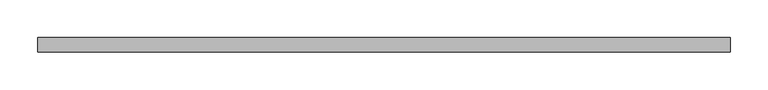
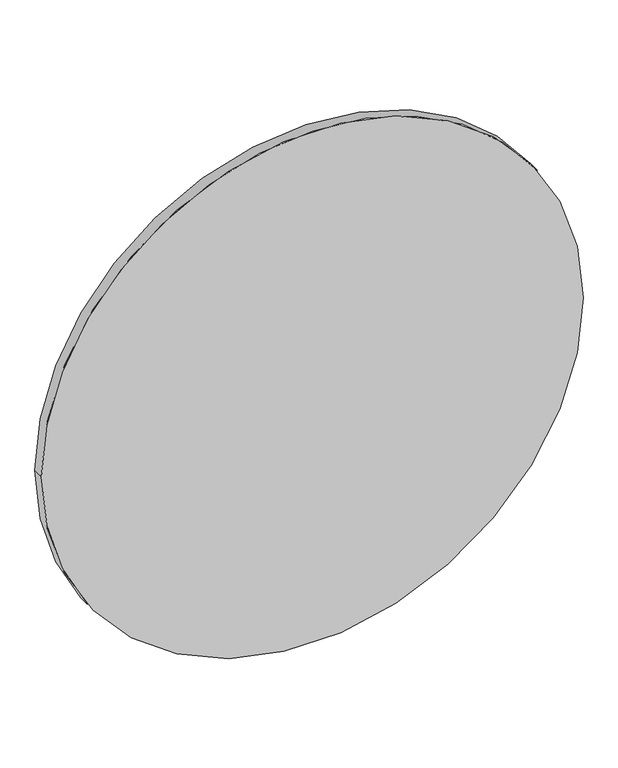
"""IFC4 building model written with IfcOpenShell, lengths in millimetres: proxy geometry, GRADIENT^TABLE 2_RADIUS BASE-SUB TOP."""

from ifc_helpers import new_model, si_unit, point, frame, origin, origin_2d, place, context, project, spatial, circle_curve, trimmed, segment, composite_curve, outline, extrude, source, transform, mapped, element, save


def generic_models_079110c3(model_context):
    return source(origin(), model_context, "Body", "SweptSolid", [
        extrude(outline(composite_curve([segment(trimmed(circle_curve(origin_2d(), 457.2), [point((0.0, -457.2))], [point((0.0, 457.2))], False, "CARTESIAN"), True, "CONTINUOUS"), segment(trimmed(circle_curve(origin_2d(), 457.2), [point((0.0, 457.2))], [point((0.0, -457.2))], False, "CARTESIAN"), True, "CONTINUOUS")], self_intersect=False)), frame((0.0, 692.15, 0.0), z_axis=(0.0, 1.0, 0.0), x_axis=(0.0, 0.0, 1.0)), (0.0, 0.0, 1.0), 19.05),
    ])


if __name__ == "__main__":
    model = new_model("IFC4")
    model_context = context("Model", 3, world=origin())
    ifc_project = project(units=[si_unit("LENGTHUNIT", "METRE", prefix="MILLI")], contexts=[model_context])
    site = spatial("IfcSite", under=ifc_project)
    building = spatial("IfcBuilding", under=site)
    placement = place(None, origin())
    generic_models_shape = generic_models_079110c3(model_context)
    element("IfcBuildingElementProxy", 1, Name="GRADIENT^TABLE 2_RADIUS BASE-SUB TOP", ObjectType="GRADIENT^TABLE 2_RADIUS BASE-SUB TOP", at=placement, inside=building, context=model_context, shape_type="MappedRepresentation", body=[
        mapped(generic_models_shape, transform((0.0, 0.0, 0.0), x_axis=(1.0, 0.0, 0.0), y_axis=(0.0, 1.0, 0.0), z_axis=(0.0, 0.0, 1.0))),
    ])
    save(model, "model.ifc")
